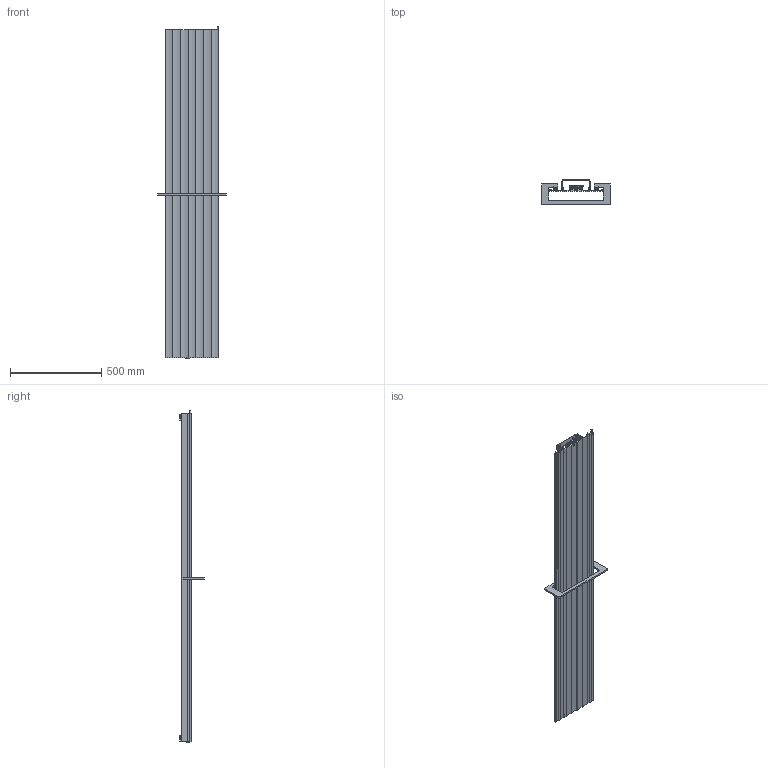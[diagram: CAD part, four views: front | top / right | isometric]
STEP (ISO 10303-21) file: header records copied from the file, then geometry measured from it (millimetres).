
FILE_DESCRIPTION (( 'STEP AP203' ), '1' );
FILE_NAME ('100 RIGHE.STEP', '2026-03-03T08:23:54', ( '' ), ( '' ), 'SwSTEP 2.0', 'SolidWorks 2025', '' );
FILE_SCHEMA (( 'CONFIG_CONTROL_DESIGN' ));
Length unit declared in the file: millimetre
Products named in the file (9): 100RIGHE ESTRUSO_1800; 101152; TAPPO PICCOLO; STAFFA.stp; 100 RIGHE; portasalviette; D0071119.stp; STAFFA; TAPPO GRANDE
Assembly tree (12 placements, depth 4):
  100 RIGHE
    100RIGHE ESTRUSO_1800
    STAFFA  x2
      STAFFA.stp
        D0071119.stp
    portasalviette
    TAPPO GRANDE
    TAPPO PICCOLO  x4
    101152
Bounding box: 378 x 134.3 x 1820 mm (x, y, z)
Volume: 4681500 mm3; surface area: 2408769.6 mm2
Topology: 20 solids, 20 shells, 616 faces, 1595 edges, 980 vertices
Faces by surface type: cylinder 256, bspline 195, plane 163, cone 2
Entity records: 18022 total; most frequent: CARTESIAN_POINT 7222, ORIENTED_EDGE 2354, DIRECTION 1748, EDGE_CURVE 1177, VERTEX_POINT 750, AXIS2_PLACEMENT_3D 657, EDGE_LOOP 451, FACE_OUTER_BOUND 440
